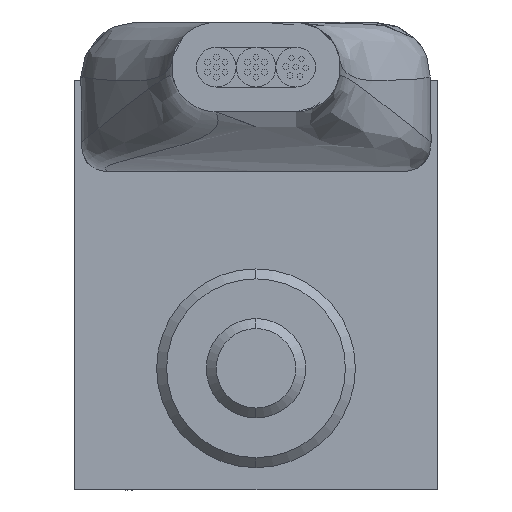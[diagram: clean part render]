
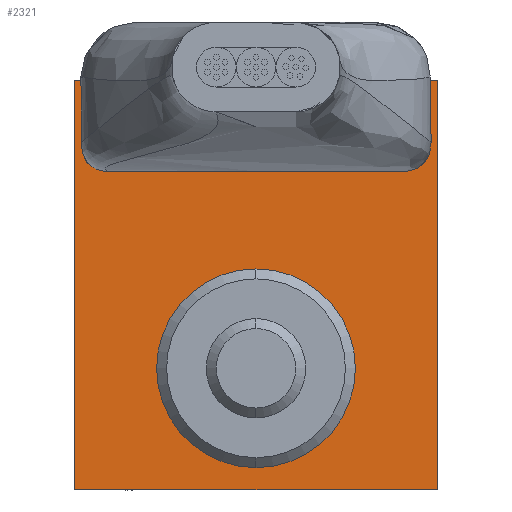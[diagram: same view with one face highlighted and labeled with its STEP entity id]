
A CAD part, left-side view. The second image highlights one B-rep face of the part: STEP entity #2321.
In plain terms, the highlighted planar face has unit normal (-1, 0, 0).
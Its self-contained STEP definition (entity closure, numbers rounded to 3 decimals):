
#188 = EDGE_LOOP ( 'NONE', ( #6187, #19917 ) ) ;
#205 = VERTEX_POINT ( 'NONE', #6420 ) ;
#269 = CARTESIAN_POINT ( 'NONE',  ( -16., 0., -1.5 ) ) ;
#334 = DIRECTION ( 'NONE',  ( 0., 0., -1. ) ) ;
#381 = CARTESIAN_POINT ( 'NONE',  ( -16., -3., -1.5 ) ) ;
#448 = LINE ( 'NONE', #555, #1819 ) ;
#555 = CARTESIAN_POINT ( 'NONE',  ( -16., -3., 0.001 ) ) ;
#687 = ORIENTED_EDGE ( 'NONE', *, *, #22625, .T. ) ;
#900 = LINE ( 'NONE', #18348, #9978 ) ;
#990 = VECTOR ( 'NONE', #10862, 1000. ) ;
#1045 = LINE ( 'NONE', #17114, #1679 ) ;
#1414 = CARTESIAN_POINT ( 'NONE',  ( -16., -1.5, -1.5 ) ) ;
#1650 = CARTESIAN_POINT ( 'NONE',  ( -16., -3., 0. ) ) ;
#1679 = VECTOR ( 'NONE', #10295, 1000. ) ;
#1819 = VECTOR ( 'NONE', #334, 1000. ) ;
#2027 = DIRECTION ( 'NONE',  ( 0., 0., 1. ) ) ;
#2051 = CARTESIAN_POINT ( 'NONE',  ( -16., -2.5, -1.5 ) ) ;
#2168 = VECTOR ( 'NONE', #3931, 1000. ) ;
#2321 = ADVANCED_FACE ( 'NONE', ( #9104, #7372 ), #21445, .F. ) ;
#2375 = DIRECTION ( 'NONE',  ( -1., 0., 0. ) ) ;
#2809 = CARTESIAN_POINT ( 'NONE',  ( -16., 0., -3.8 ) ) ;
#2968 = VECTOR ( 'NONE', #7312, 1000. ) ;
#2978 = VERTEX_POINT ( 'NONE', #381 ) ;
#3138 = VERTEX_POINT ( 'NONE', #15520 ) ;
#3239 = DIRECTION ( 'NONE',  ( -1., 0., 0. ) ) ;
#3703 = ORIENTED_EDGE ( 'NONE', *, *, #20209, .F. ) ;
#3829 = VERTEX_POINT ( 'NONE', #13713 ) ;
#3931 = DIRECTION ( 'NONE',  ( 0., -1., 0. ) ) ;
#4165 = CARTESIAN_POINT ( 'NONE',  ( -16., 3.65, 0. ) ) ;
#4417 = ORIENTED_EDGE ( 'NONE', *, *, #17131, .T. ) ;
#4520 = EDGE_CURVE ( 'NONE', #13172, #22574, #22349, .T. ) ;
#4822 = CARTESIAN_POINT ( 'NONE',  ( -16., 3., 0.001 ) ) ;
#4878 = ORIENTED_EDGE ( 'NONE', *, *, #21617, .F. ) ;
#5107 = VECTOR ( 'NONE', #17070, 1000. ) ;
#5319 = VERTEX_POINT ( 'NONE', #7878 ) ;
#5503 = ORIENTED_EDGE ( 'NONE', *, *, #4520, .F. ) ;
#5633 = CARTESIAN_POINT ( 'NONE',  ( -16., 3.65, 0. ) ) ;
#6187 = ORIENTED_EDGE ( 'NONE', *, *, #12759, .F. ) ;
#6420 = CARTESIAN_POINT ( 'NONE',  ( -16., 0., -7.8 ) ) ;
#6605 = VECTOR ( 'NONE', #18669, 1000. ) ;
#6645 = EDGE_CURVE ( 'NONE', #3138, #21296, #19981, .T. ) ;
#6929 = DIRECTION ( 'NONE',  ( 0., 0., 1. ) ) ;
#7024 = VECTOR ( 'NONE', #14849, 1000. ) ;
#7077 = EDGE_CURVE ( 'NONE', #11948, #9772, #900, .T. ) ;
#7281 = EDGE_CURVE ( 'NONE', #5319, #15511, #16099, .T. ) ;
#7312 = DIRECTION ( 'NONE',  ( 0., 1., 0. ) ) ;
#7339 = VECTOR ( 'NONE', #12061, 1000. ) ;
#7372 = FACE_OUTER_BOUND ( 'NONE', #9564, .T. ) ;
#7444 = VERTEX_POINT ( 'NONE', #16557 ) ;
#7878 = CARTESIAN_POINT ( 'NONE',  ( -16., 0.5, -1.5 ) ) ;
#7948 = VECTOR ( 'NONE', #11683, 1000. ) ;
#8187 = ORIENTED_EDGE ( 'NONE', *, *, #9506, .F. ) ;
#8318 = CARTESIAN_POINT ( 'NONE',  ( -16., 2.5, -1.5 ) ) ;
#8378 = DIRECTION ( 'NONE',  ( 0., 1., 0. ) ) ;
#8462 = EDGE_CURVE ( 'NONE', #205, #19164, #22092, .T. ) ;
#8836 = ORIENTED_EDGE ( 'NONE', *, *, #13825, .T. ) ;
#9104 = FACE_BOUND ( 'NONE', #188, .T. ) ;
#9131 = LINE ( 'NONE', #18148, #2168 ) ;
#9181 = ORIENTED_EDGE ( 'NONE', *, *, #9373, .T. ) ;
#9373 = EDGE_CURVE ( 'NONE', #13698, #13780, #10416, .T. ) ;
#9487 = VECTOR ( 'NONE', #21016, 1000. ) ;
#9506 = EDGE_CURVE ( 'NONE', #13698, #15511, #1045, .T. ) ;
#9564 = EDGE_LOOP ( 'NONE', ( #16637, #20137, #4417, #4878, #21683, #13495, #19773, #8187, #9181, #8836, #5503, #16030, #687, #10310, #3703, #22203 ) ) ;
#9772 = VERTEX_POINT ( 'NONE', #18933 ) ;
#9900 = CARTESIAN_POINT ( 'NONE',  ( -16., -3.65, 0. ) ) ;
#9978 = VECTOR ( 'NONE', #11542, 1000. ) ;
#10200 = CARTESIAN_POINT ( 'NONE',  ( -16., -3., -1.499 ) ) ;
#10243 = CARTESIAN_POINT ( 'NONE',  ( -16., 3.65, 0. ) ) ;
#10295 = DIRECTION ( 'NONE',  ( 0., -1., 0. ) ) ;
#10310 = ORIENTED_EDGE ( 'NONE', *, *, #7077, .T. ) ;
#10416 = LINE ( 'NONE', #12026, #7948 ) ;
#10845 = CARTESIAN_POINT ( 'NONE',  ( -16., 0., -1.5 ) ) ;
#10862 = DIRECTION ( 'NONE',  ( 0., -1., 0. ) ) ;
#10950 = DIRECTION ( 'NONE',  ( 1., 0., 0. ) ) ;
#11542 = DIRECTION ( 'NONE',  ( 0., -1., 0. ) ) ;
#11683 = DIRECTION ( 'NONE',  ( 0., 1., 0. ) ) ;
#11948 = VERTEX_POINT ( 'NONE', #22097 ) ;
#12026 = CARTESIAN_POINT ( 'NONE',  ( -16., 0., -1.5 ) ) ;
#12061 = DIRECTION ( 'NONE',  ( 0., 0., -1. ) ) ;
#12409 = CARTESIAN_POINT ( 'NONE',  ( -16., 3., 0. ) ) ;
#12584 = LINE ( 'NONE', #10845, #14349 ) ;
#12759 = EDGE_CURVE ( 'NONE', #19164, #205, #16692, .T. ) ;
#13172 = VERTEX_POINT ( 'NONE', #12409 ) ;
#13274 = AXIS2_PLACEMENT_3D ( 'NONE', #18209, #2375, #2027 ) ;
#13495 = ORIENTED_EDGE ( 'NONE', *, *, #21822, .F. ) ;
#13698 = VERTEX_POINT ( 'NONE', #8318 ) ;
#13713 = CARTESIAN_POINT ( 'NONE',  ( -16., -0.5, -1.5 ) ) ;
#13723 = LINE ( 'NONE', #20738, #18833 ) ;
#13752 = AXIS2_PLACEMENT_3D ( 'NONE', #13762, #3239, #6929 ) ;
#13762 = CARTESIAN_POINT ( 'NONE',  ( -16., 0., -5.8 ) ) ;
#13780 = VERTEX_POINT ( 'NONE', #18718 ) ;
#13784 = CARTESIAN_POINT ( 'NONE',  ( -16., 1.5, -1.5 ) ) ;
#13825 = EDGE_CURVE ( 'NONE', #13780, #22574, #19505, .T. ) ;
#13979 = VERTEX_POINT ( 'NONE', #2051 ) ;
#14349 = VECTOR ( 'NONE', #17886, 1000. ) ;
#14849 = DIRECTION ( 'NONE',  ( 0., -1., 0. ) ) ;
#15312 = LINE ( 'NONE', #22327, #17651 ) ;
#15511 = VERTEX_POINT ( 'NONE', #13784 ) ;
#15520 = CARTESIAN_POINT ( 'NONE',  ( -16., -3., 0. ) ) ;
#15711 = CARTESIAN_POINT ( 'NONE',  ( -16., 3., 0. ) ) ;
#15975 = LINE ( 'NONE', #1650, #7339 ) ;
#16024 = EDGE_CURVE ( 'NONE', #17728, #3829, #15312, .T. ) ;
#16030 = ORIENTED_EDGE ( 'NONE', *, *, #16740, .F. ) ;
#16099 = LINE ( 'NONE', #269, #2968 ) ;
#16452 = LINE ( 'NONE', #17959, #7024 ) ;
#16557 = CARTESIAN_POINT ( 'NONE',  ( -16., 3.65, 0. ) ) ;
#16637 = ORIENTED_EDGE ( 'NONE', *, *, #18624, .T. ) ;
#16692 = CIRCLE ( 'NONE', #13752, 2. ) ;
#16740 = EDGE_CURVE ( 'NONE', #7444, #13172, #9131, .T. ) ;
#17070 = DIRECTION ( 'NONE',  ( 0., 0., -1. ) ) ;
#17114 = CARTESIAN_POINT ( 'NONE',  ( -16., 3.65, -1.5 ) ) ;
#17131 = EDGE_CURVE ( 'NONE', #2978, #13979, #12584, .T. ) ;
#17651 = VECTOR ( 'NONE', #8378, 1000. ) ;
#17714 = VECTOR ( 'NONE', #22575, 1000. ) ;
#17728 = VERTEX_POINT ( 'NONE', #1414 ) ;
#17796 = CARTESIAN_POINT ( 'NONE',  ( -16., -3.65, 0. ) ) ;
#17886 = DIRECTION ( 'NONE',  ( 0., 1., 0. ) ) ;
#17959 = CARTESIAN_POINT ( 'NONE',  ( -16., 3.65, -1.5 ) ) ;
#17998 = DIRECTION ( 'NONE',  ( 0., 0., -1. ) ) ;
#18148 = CARTESIAN_POINT ( 'NONE',  ( -16., 3.65, 0. ) ) ;
#18209 = CARTESIAN_POINT ( 'NONE',  ( -16., 0., -5.8 ) ) ;
#18305 = VERTEX_POINT ( 'NONE', #10200 ) ;
#18348 = CARTESIAN_POINT ( 'NONE',  ( -16., 3.65, -8.25 ) ) ;
#18624 = EDGE_CURVE ( 'NONE', #3138, #18305, #448, .T. ) ;
#18669 = DIRECTION ( 'NONE',  ( 0., 0., -1. ) ) ;
#18718 = CARTESIAN_POINT ( 'NONE',  ( -16., 3., -1.5 ) ) ;
#18833 = VECTOR ( 'NONE', #21998, 1000. ) ;
#18933 = CARTESIAN_POINT ( 'NONE',  ( -16., -3.65, -8.25 ) ) ;
#19164 = VERTEX_POINT ( 'NONE', #2809 ) ;
#19505 = LINE ( 'NONE', #15711, #9487 ) ;
#19773 = ORIENTED_EDGE ( 'NONE', *, *, #7281, .T. ) ;
#19917 = ORIENTED_EDGE ( 'NONE', *, *, #8462, .F. ) ;
#19981 = LINE ( 'NONE', #4165, #990 ) ;
#20137 = ORIENTED_EDGE ( 'NONE', *, *, #22041, .T. ) ;
#20209 = EDGE_CURVE ( 'NONE', #21296, #9772, #21881, .T. ) ;
#20467 = AXIS2_PLACEMENT_3D ( 'NONE', #5633, #10950, #17998 ) ;
#20738 = CARTESIAN_POINT ( 'NONE',  ( -16., 3.65, -1.5 ) ) ;
#21016 = DIRECTION ( 'NONE',  ( 0., 0., 1. ) ) ;
#21296 = VERTEX_POINT ( 'NONE', #17796 ) ;
#21445 = PLANE ( 'NONE',  #20467 ) ;
#21617 = EDGE_CURVE ( 'NONE', #17728, #13979, #13723, .T. ) ;
#21683 = ORIENTED_EDGE ( 'NONE', *, *, #16024, .T. ) ;
#21822 = EDGE_CURVE ( 'NONE', #5319, #3829, #16452, .T. ) ;
#21881 = LINE ( 'NONE', #9900, #6605 ) ;
#21998 = DIRECTION ( 'NONE',  ( 0., -1., 0. ) ) ;
#22041 = EDGE_CURVE ( 'NONE', #18305, #2978, #15975, .T. ) ;
#22092 = CIRCLE ( 'NONE', #13274, 2. ) ;
#22097 = CARTESIAN_POINT ( 'NONE',  ( -16., 3.65, -8.25 ) ) ;
#22203 = ORIENTED_EDGE ( 'NONE', *, *, #6645, .F. ) ;
#22230 = CARTESIAN_POINT ( 'NONE',  ( -16., 3., -1.499 ) ) ;
#22327 = CARTESIAN_POINT ( 'NONE',  ( -16., 0., -1.5 ) ) ;
#22349 = LINE ( 'NONE', #4822, #5107 ) ;
#22462 = LINE ( 'NONE', #10243, #17714 ) ;
#22574 = VERTEX_POINT ( 'NONE', #22230 ) ;
#22575 = DIRECTION ( 'NONE',  ( 0., 0., -1. ) ) ;
#22625 = EDGE_CURVE ( 'NONE', #7444, #11948, #22462, .T. ) ;
